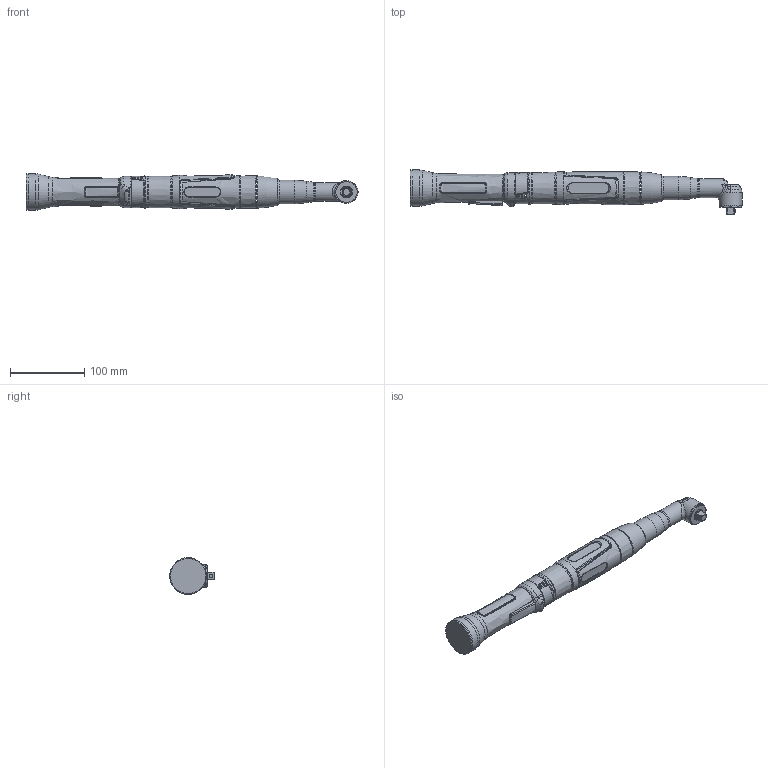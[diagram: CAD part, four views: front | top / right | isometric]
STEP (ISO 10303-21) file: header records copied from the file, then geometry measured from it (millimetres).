
FILE_DESCRIPTION (( 'STEP AP214' ), '1' );
FILE_NAME ('70058337_HSX1032WV38.STEP', '2016-11-16T13:37:15', ( 'admin' ), ( '' ), 'SwSTEP 2.0', 'SolidWorks 2014', '' );
FILE_SCHEMA (( 'AUTOMOTIVE_DESIGN' ));
Length unit declared in the file: millimetre
Products named in the file (1): 70058337_HSX1032WV38
Bounding box: 448.1 x 61.35 x 49.5 mm (x, y, z)
Volume: 496204 mm3; surface area: 79230.4 mm2
Topology: 4 solids, 4 shells, 964 faces, 2363 edges, 1390 vertices
Faces by surface type: bspline 360, cylinder 231, plane 169, torus 140, cone 36, sphere 28
Full cylindrical faces by diameter (mm): 1.7 x2, 3.8 x1, 4 x1, 25.5 x1, 31 x2, 31.7 x1, 38 x1, 39 x1, 39.5 x1, 40.5 x1, 42 x2, 43.3 x1, 43.5 x1, 49.5 x1
Entity records: 43311 total; most frequent: CARTESIAN_POINT 21506, ORIENTED_EDGE 4468, DIRECTION 3361, EDGE_CURVE 2234, AXIS2_PLACEMENT_3D 1413, VERTEX_POINT 1356, EDGE_LOOP 1058, FACE_OUTER_BOUND 1013
